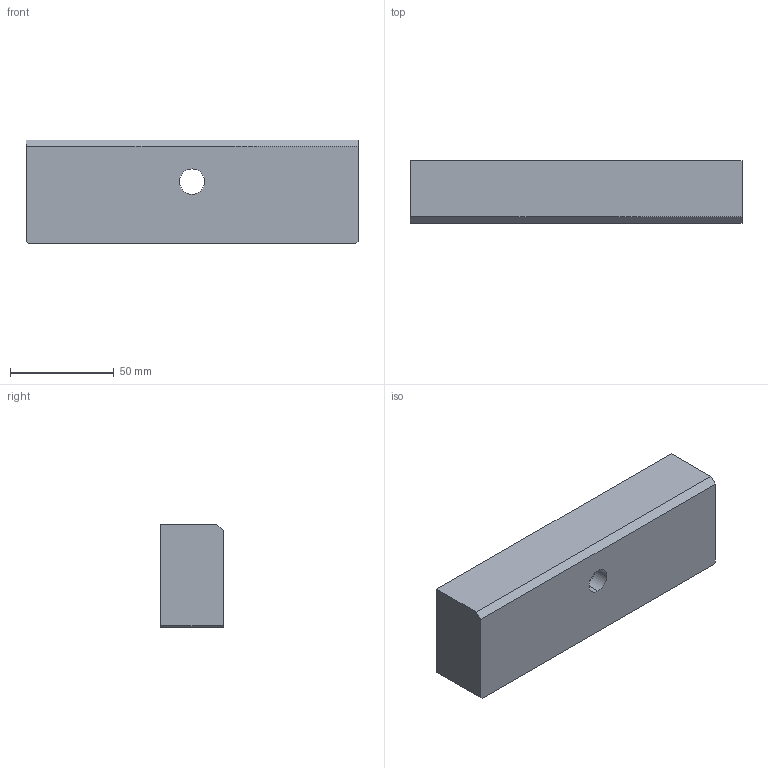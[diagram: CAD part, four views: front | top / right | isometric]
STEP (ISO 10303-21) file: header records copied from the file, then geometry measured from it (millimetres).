
FILE_DESCRIPTION (( 'STEP AP214' ), '1' );
FILE_NAME ('6921034023031.STEP', '2016-02-12T12:51:50', ( '' ), ( '' ), 'SwSTEP 2.0', 'SolidWorks 2015', '' );
FILE_SCHEMA (( 'AUTOMOTIVE_DESIGN' ));
Length unit declared in the file: millimetre
Products named in the file (1): 6921034023031
Bounding box: 160 x 30 x 50 mm (x, y, z)
Volume: 233321.2 mm3; surface area: 29520.5 mm2
Topology: 1 solids, 1 shells, 14 faces, 33 edges, 22 vertices
Faces by surface type: plane 10, cylinder 4
Entity records: 443 total; most frequent: DIRECTION 71, CARTESIAN_POINT 70, ORIENTED_EDGE 66, EDGE_CURVE 33, LINE 25, VECTOR 25, AXIS2_PLACEMENT_3D 23, VERTEX_POINT 22
